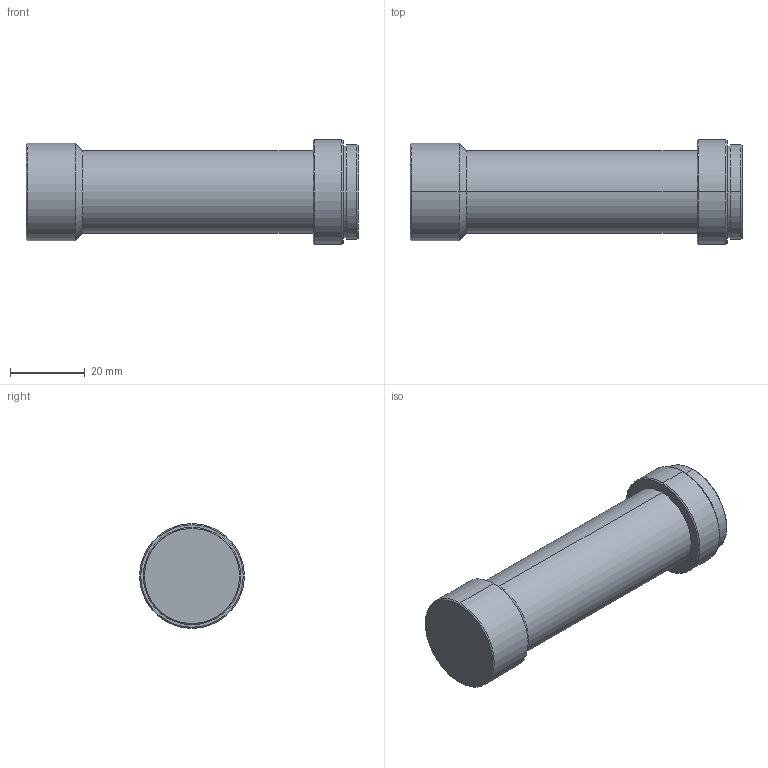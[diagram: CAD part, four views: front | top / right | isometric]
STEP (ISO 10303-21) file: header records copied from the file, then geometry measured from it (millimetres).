
FILE_DESCRIPTION (( 'STEP AP203' ), '1' );
FILE_NAME ('WWH30-65AT.STEP', '2019-11-14T10:04:03', ( 'Windows 蚚誧' ), ( '' ), 'SwSTEP 2.0', 'SolidWorks 2017', '' );
FILE_SCHEMA (( 'CONFIG_CONTROL_DESIGN' ));
Length unit declared in the file: millimetre
Products named in the file (1): WWH30-65AT
Bounding box: 88.7 x 28 x 28 mm (x, y, z)
Volume: 38184.7 mm3; surface area: 7961.9 mm2
Topology: 1 solids, 1 shells, 25 faces, 48 edges, 28 vertices
Faces by surface type: cone 10, cylinder 10, plane 5
Entity records: 711 total; most frequent: DIRECTION 128, CARTESIAN_POINT 102, ORIENTED_EDGE 96, AXIS2_PLACEMENT_3D 54, EDGE_CURVE 48, CIRCLE 28, EDGE_LOOP 28, VERTEX_POINT 28
